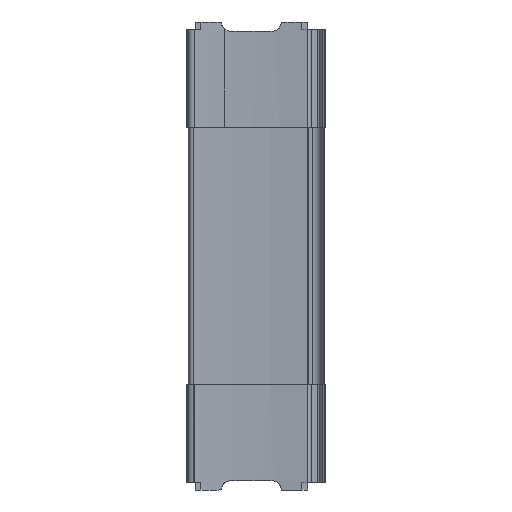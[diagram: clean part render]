
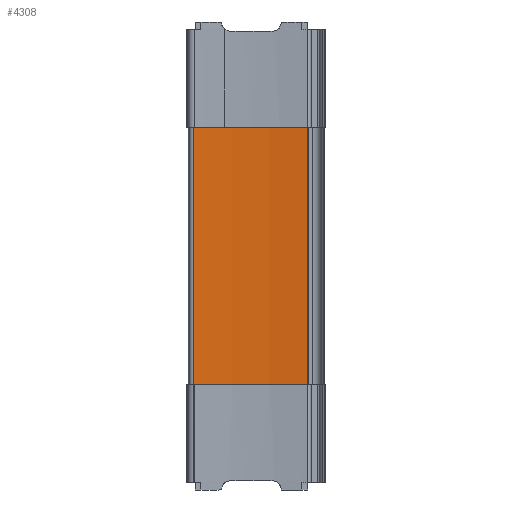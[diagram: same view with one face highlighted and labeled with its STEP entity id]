
A CAD part, left-side view. The second image highlights one B-rep face of the part: STEP entity #4308.
In plain terms, the highlighted cylindrical face has radius 250 mm (diameter 500 mm), a partial arc.
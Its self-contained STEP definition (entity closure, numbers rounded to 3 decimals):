
#237 = CARTESIAN_POINT ( 'NONE',  ( -255.319, 48.963, 62.5 ) ) ;
#242 = DIRECTION ( 'NONE',  ( 0., 0., -1. ) ) ;
#243 = DIRECTION ( 'NONE',  ( 1., 0., 0. ) ) ;
#245 = CARTESIAN_POINT ( 'NONE',  ( -8.643, 8.331, 68.5 ) ) ;
#246 = DIRECTION ( 'NONE',  ( 0., 0., -1. ) ) ;
#247 = CARTESIAN_POINT ( 'NONE',  ( -255.319, 48.963, -62.5 ) ) ;
#249 = DIRECTION ( 'NONE',  ( 0., 0., 1. ) ) ;
#250 = DIRECTION ( 'NONE',  ( -1., 0., 0. ) ) ;
#763 = CARTESIAN_POINT ( 'NONE',  ( -5.747, 63.571, -62.5 ) ) ;
#785 = CARTESIAN_POINT ( 'NONE',  ( -8.643, 8.331, -62.5 ) ) ;
#793 = CARTESIAN_POINT ( 'NONE',  ( -8.643, 8.331, 62.5 ) ) ;
#798 = CARTESIAN_POINT ( 'NONE',  ( -5.747, 63.571, 62.5 ) ) ;
#966 = EDGE_CURVE ( 'NONE', #3533, #3636, #3979, .T. ) ;
#1067 = AXIS2_PLACEMENT_3D ( 'NONE', #247, #249, #250 ) ;
#1071 = AXIS2_PLACEMENT_3D ( 'NONE', #237, #242, #243 ) ;
#1176 = AXIS2_PLACEMENT_3D ( 'NONE', #1421, #1420, #1419 ) ;
#1419 = DIRECTION ( 'NONE',  ( -1., 0., 0. ) ) ;
#1420 = DIRECTION ( 'NONE',  ( 0., 0., -1. ) ) ;
#1421 = CARTESIAN_POINT ( 'NONE',  ( -255.319, 48.963, 68.5 ) ) ;
#1898 = ORIENTED_EDGE ( 'NONE', *, *, #4092, .F. ) ;
#1899 = ORIENTED_EDGE ( 'NONE', *, *, #4091, .F. ) ;
#1900 = ORIENTED_EDGE ( 'NONE', *, *, #4090, .F. ) ;
#1901 = ORIENTED_EDGE ( 'NONE', *, *, #966, .T. ) ;
#2298 = EDGE_LOOP ( 'NONE', ( #1898, #1899, #1900, #1901 ) ) ;
#2930 = LINE ( 'NONE', #245, #2937 ) ;
#2937 = VECTOR ( 'NONE', #246, 1000. ) ;
#2939 = CIRCLE ( 'NONE', #1071, 250. ) ;
#2942 = CIRCLE ( 'NONE', #1067, 250. ) ;
#3277 = FACE_OUTER_BOUND ( 'NONE', #2298, .T. ) ;
#3280 = CYLINDRICAL_SURFACE ( 'NONE', #1176, 250. ) ;
#3520 = VERTEX_POINT ( 'NONE', #785 ) ;
#3528 = VERTEX_POINT ( 'NONE', #793 ) ;
#3533 = VERTEX_POINT ( 'NONE', #798 ) ;
#3636 = VERTEX_POINT ( 'NONE', #763 ) ;
#3890 = CARTESIAN_POINT ( 'NONE',  ( -5.747, 63.571, 68.5 ) ) ;
#3891 = DIRECTION ( 'NONE',  ( 0., 0., -1. ) ) ;
#3979 = LINE ( 'NONE', #3890, #3985 ) ;
#3985 = VECTOR ( 'NONE', #3891, 1000. ) ;
#4090 = EDGE_CURVE ( 'NONE', #3533, #3528, #2939, .T. ) ;
#4091 = EDGE_CURVE ( 'NONE', #3528, #3520, #2930, .T. ) ;
#4092 = EDGE_CURVE ( 'NONE', #3520, #3636, #2942, .T. ) ;
#4308 = ADVANCED_FACE ( 'NONE', ( #3277 ), #3280, .F. ) ;
